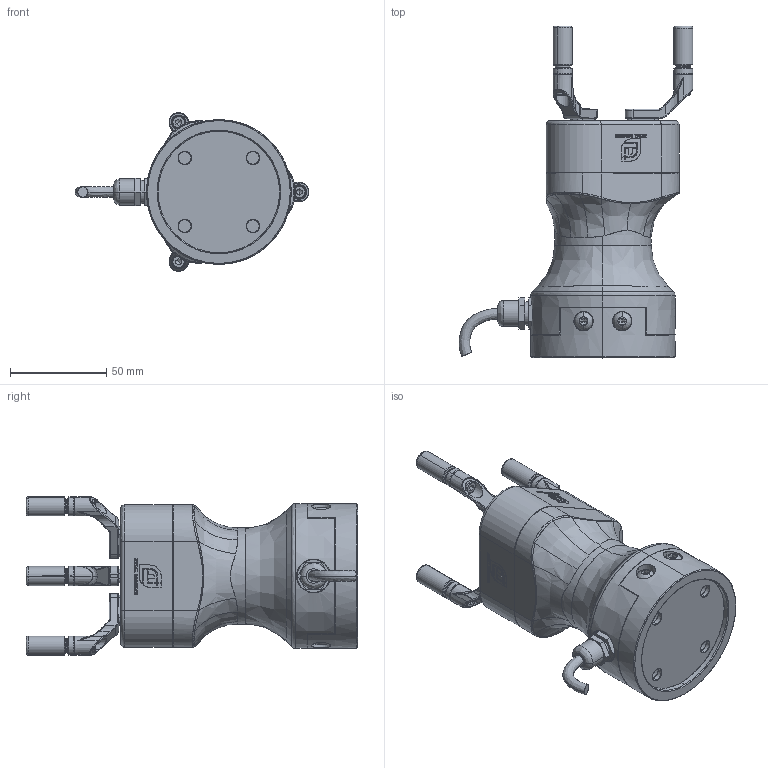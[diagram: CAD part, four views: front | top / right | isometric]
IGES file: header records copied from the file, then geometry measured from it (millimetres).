
Start section: SolidWorks IGES file using analytic representation for surfaces
Global section: file name: 1HC:\Users\Administrator\Desktop\ECG01000000淕儂1.IGS; native system: SolidWorks 2016; preprocessor: SolidWorks 2016; author: Administrator; date: 210603.085815; units: millimetre
Bounding box: 121.26 x 172 x 82.23 mm (x, y, z)
Surface area: 79438.2 mm2 (no closed solid volume)
Topology: 0 solids, 0 shells, 2070 faces, 19709 edges, 19631 vertices
Faces by surface type: bspline 1411, revolution 659
